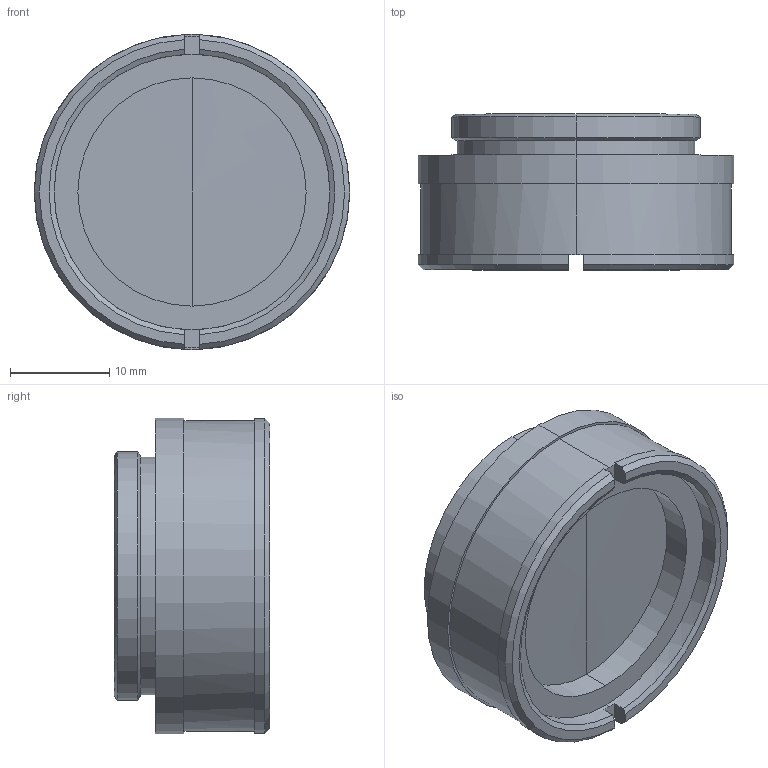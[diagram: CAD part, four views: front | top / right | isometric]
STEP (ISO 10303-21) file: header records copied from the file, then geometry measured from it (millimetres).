
FILE_DESCRIPTION (( 'STEP AP214' ), '1' );
FILE_NAME ('35-00-11-000 OUTLINE.STEP', '2012-11-15T21:31:41', ( '' ), ( '' ), 'SwSTEP 2.0', 'SolidWorks 2011', '' );
FILE_SCHEMA (( 'AUTOMOTIVE_DESIGN' ));
Length unit declared in the file: millimetre
Products named in the file (1): 35-00-11-000 OUTLINE
Bounding box: 31.75 x 15.66 x 31.75 mm (x, y, z)
Volume: 6702.8 mm3; surface area: 3812.3 mm2
Topology: 1 solids, 1 shells, 43 faces, 102 edges, 62 vertices
Faces by surface type: cylinder 16, plane 15, cone 12
Entity records: 1328 total; most frequent: CARTESIAN_POINT 228, DIRECTION 226, ORIENTED_EDGE 196, EDGE_CURVE 98, AXIS2_PLACEMENT_3D 92, VERTEX_POINT 62, CIRCLE 48, EDGE_LOOP 48
